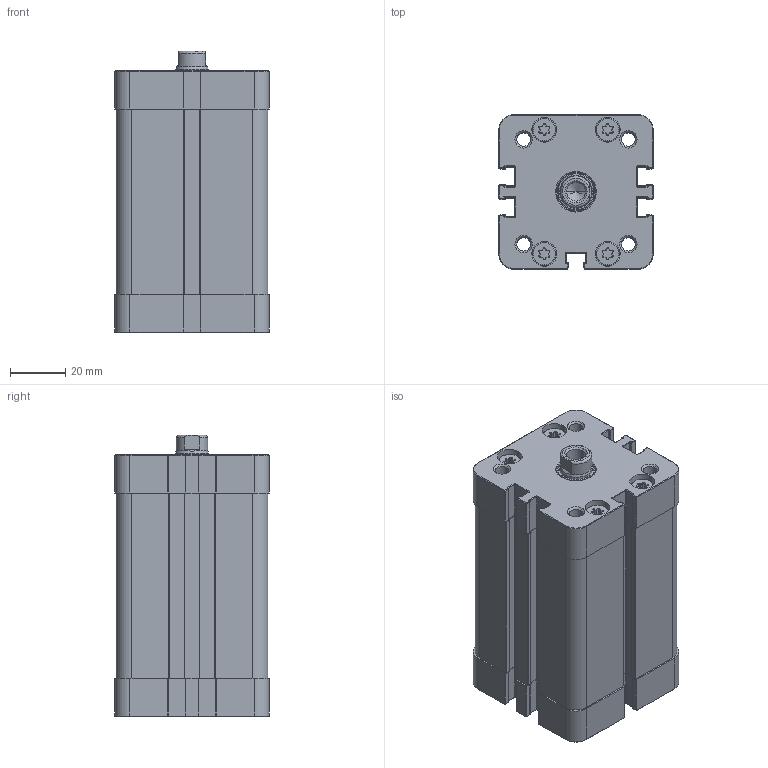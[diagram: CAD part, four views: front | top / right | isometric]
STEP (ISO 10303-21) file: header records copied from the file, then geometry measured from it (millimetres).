
FILE_DESCRIPTION (( 'STEP AP214' ), '1' );
FILE_NAME ('Q11M20400050.STEP', '2021-09-17T15:13:00', ( '' ), ( '' ), 'SwSTEP 2.0', 'SolidWorks 2016', '' );
FILE_SCHEMA (( 'AUTOMOTIVE_DESIGN' ));
Length unit declared in the file: millimetre
Products named in the file (6): TP Ø40 ISO 21287 WEB; TA Ø40 ISO 21287 WEB; Pistone Ø40 ISO 21287 WEB; Q11M20400050; 39.D01.000_39.D01.050; 000.554.7_000.554.0050
Assembly tree (5 placements, depth 2):
  Q11M20400050
    TA Ø40 ISO 21287 WEB
    TP Ø40 ISO 21287 WEB
    000.554.7_000.554.0050
    39.D01.000_39.D01.050
    Pistone Ø40 ISO 21287 WEB
Bounding box: 56 x 56 x 102 mm (x, y, z)
Volume: 164966.1 mm3; surface area: 84726.7 mm2
Topology: 14 solids, 14 shells, 1311 faces, 3198 edges, 1913 vertices
Faces by surface type: cylinder 537, plane 418, torus 180, cone 176
Entity records: 50217 total; most frequent: DIRECTION 7256, CARTESIAN_POINT 6468, ORIENTED_EDGE 6312, EDGE_CURVE 3156, AXIS2_PLACEMENT_3D 2793, VERTEX_POINT 1913, VECTOR 1670, LINE 1670
